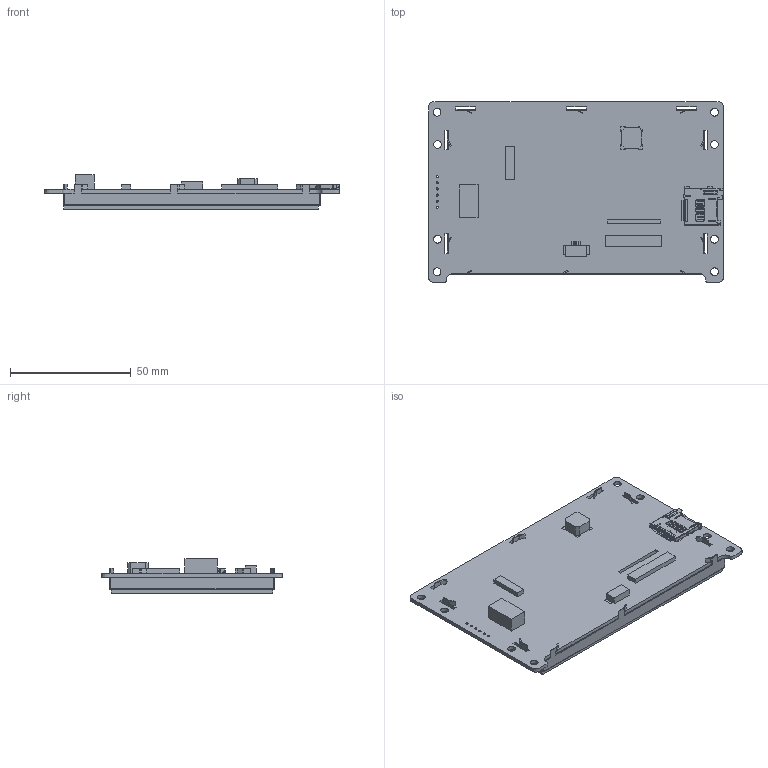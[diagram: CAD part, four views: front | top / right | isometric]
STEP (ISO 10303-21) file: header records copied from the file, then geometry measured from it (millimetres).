
FILE_DESCRIPTION(/* description */ (''),/* implementation_level */ '2;1');
FILE_NAME(/* name */ '3D-VTc043T34T_stp.stp',/* time_stamp */ '2025-02-14T19:00:58+08:00',/* author */ (''),/* organization */ (''),/* preprocessor_version */ 'ST-DEVELOPER v16',/* originating_system */ 'SIEMENS PLM Software NX 10.0',/* authorisation */ '');
FILE_SCHEMA (('AP203_CONFIGURATION_CONTROLLED_3D_DESIGN_OF_MECHANICAL_PARTS_AND_ASSEMBLIES_MIM_LF { 1 0 10303 403 2 1 2}'));
Length unit declared in the file: millimetre
Products named in the file (1): 3D-VTc043T34T_stp
Bounding box: 121.9 x 74.7 x 14.3 mm (x, y, z)
Volume: 27079.5 mm3; surface area: 43498.1 mm2
Topology: 14 solids, 14 shells, 1204 faces, 3419 edges, 2219 vertices
Faces by surface type: plane 922, cylinder 280, cone 1, extrusion 1
Full cylindrical faces by diameter (mm): 0.889 x6, 3.2 x8
Entity records: 39412 total; most frequent: CARTESIAN_POINT 7062, ORIENTED_EDGE 6808, DIRECTION 6345, EDGE_CURVE 3404, VECTOR 2805, LINE 2804, VERTEX_POINT 2219, AXIS2_PLACEMENT_3D 1770
